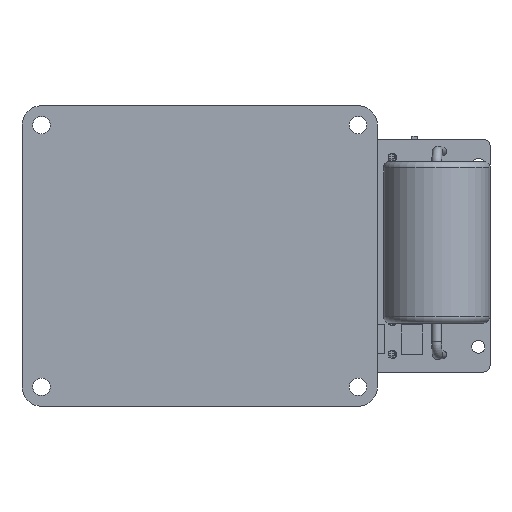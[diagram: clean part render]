
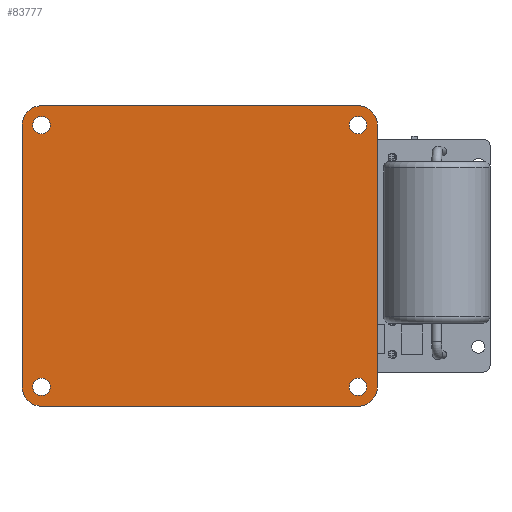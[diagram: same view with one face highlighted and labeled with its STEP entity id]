
A CAD part, front view. The second image highlights one B-rep face of the part: STEP entity #83777.
In plain terms, the highlighted planar face has unit normal (0, -1, 0).
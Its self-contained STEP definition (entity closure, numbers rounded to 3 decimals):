
#280 = AXIS2_PLACEMENT_3D ( 'NONE', #11546, #77367, #21029 ) ;
#2741 = CARTESIAN_POINT ( 'NONE',  ( 24.5, 0., -20.25 ) ) ;
#3440 = CARTESIAN_POINT ( 'NONE',  ( -27.5, 0., -23.25 ) ) ;
#3979 = AXIS2_PLACEMENT_3D ( 'NONE', #71376, #14977, #87202 ) ;
#5945 = CARTESIAN_POINT ( 'NONE',  ( -24.5, 0., 20.25 ) ) ;
#6022 = CARTESIAN_POINT ( 'NONE',  ( -24.5, 0., 21.6 ) ) ;
#7250 = CARTESIAN_POINT ( 'NONE',  ( 24.5, 0., -18.9 ) ) ;
#8607 = EDGE_CURVE ( 'NONE', #88658, #50095, #27370, .T. ) ;
#8664 = VERTEX_POINT ( 'NONE', #42141 ) ;
#9420 = CARTESIAN_POINT ( 'NONE',  ( -27.5, 0., 20.25 ) ) ;
#9463 = DIRECTION ( 'NONE',  ( 0., 0., 1. ) ) ;
#10241 = AXIS2_PLACEMENT_3D ( 'NONE', #5945, #71776, #15374 ) ;
#10761 = VERTEX_POINT ( 'NONE', #48010 ) ;
#11461 = CIRCLE ( 'NONE', #28093, 3. ) ;
#11546 = CARTESIAN_POINT ( 'NONE',  ( -24.5, 0., -20.25 ) ) ;
#12198 = DIRECTION ( 'NONE',  ( 0., 0., 1. ) ) ;
#14977 = DIRECTION ( 'NONE',  ( 0., -1., 0. ) ) ;
#15374 = DIRECTION ( 'NONE',  ( 0., 0., 1. ) ) ;
#18169 = CARTESIAN_POINT ( 'NONE',  ( -27.5, 0., -23.25 ) ) ;
#18264 = CARTESIAN_POINT ( 'NONE',  ( -24.5, 0., 20.25 ) ) ;
#18703 = ORIENTED_EDGE ( 'NONE', *, *, #69600, .F. ) ;
#21029 = DIRECTION ( 'NONE',  ( 0., 0., 1. ) ) ;
#22060 = FACE_BOUND ( 'NONE', #27642, .T. ) ;
#25489 = CIRCLE ( 'NONE', #57695, 3. ) ;
#27370 = LINE ( 'NONE', #3440, #30285 ) ;
#27642 = EDGE_LOOP ( 'NONE', ( #111298 ) ) ;
#27694 = DIRECTION ( 'NONE',  ( 0., 0., 1. ) ) ;
#28093 = AXIS2_PLACEMENT_3D ( 'NONE', #122360, #65870, #9463 ) ;
#28945 = DIRECTION ( 'NONE',  ( 0., -1., 0. ) ) ;
#29708 = LINE ( 'NONE', #105727, #32718 ) ;
#30285 = VECTOR ( 'NONE', #69287, 1000. ) ;
#32718 = VECTOR ( 'NONE', #49315, 1000. ) ;
#33107 = CARTESIAN_POINT ( 'NONE',  ( 24.5, 0., 23.25 ) ) ;
#33970 = VECTOR ( 'NONE', #37076, 1000. ) ;
#36290 = CARTESIAN_POINT ( 'NONE',  ( -27.5, 0., -20.25 ) ) ;
#37076 = DIRECTION ( 'NONE',  ( 0., 0., 1. ) ) ;
#38023 = ORIENTED_EDGE ( 'NONE', *, *, #38598, .T. ) ;
#38213 = VECTOR ( 'NONE', #71411, 1000. ) ;
#38598 = EDGE_CURVE ( 'NONE', #104832, #50095, #11461, .T. ) ;
#39486 = ORIENTED_EDGE ( 'NONE', *, *, #115641, .T. ) ;
#40102 = CIRCLE ( 'NONE', #3979, 3. ) ;
#40690 = VERTEX_POINT ( 'NONE', #9420 ) ;
#41190 = LINE ( 'NONE', #118469, #38213 ) ;
#41204 = CIRCLE ( 'NONE', #99395, 1.35 ) ;
#41538 = EDGE_CURVE ( 'NONE', #88658, #80231, #40102, .T. ) ;
#42141 = CARTESIAN_POINT ( 'NONE',  ( 27.5, 0., 20.25 ) ) ;
#43429 = VERTEX_POINT ( 'NONE', #6022 ) ;
#43796 = CIRCLE ( 'NONE', #10241, 3. ) ;
#44182 = FACE_BOUND ( 'NONE', #89094, .T. ) ;
#44874 = VERTEX_POINT ( 'NONE', #7250 ) ;
#46769 = CARTESIAN_POINT ( 'NONE',  ( -24.5, 0., -23.25 ) ) ;
#48010 = CARTESIAN_POINT ( 'NONE',  ( -24.5, 0., -18.9 ) ) ;
#49315 = DIRECTION ( 'NONE',  ( 1., 0., 0. ) ) ;
#50095 = VERTEX_POINT ( 'NONE', #46769 ) ;
#50106 = FACE_BOUND ( 'NONE', #89266, .T. ) ;
#50295 = VERTEX_POINT ( 'NONE', #33107 ) ;
#51392 = CARTESIAN_POINT ( 'NONE',  ( 24.5, 0., 21.6 ) ) ;
#55570 = AXIS2_PLACEMENT_3D ( 'NONE', #18264, #84079, #27694 ) ;
#56058 = CARTESIAN_POINT ( 'NONE',  ( -27.5, 0., 23.25 ) ) ;
#56109 = CARTESIAN_POINT ( 'NONE',  ( 24.5, 0., 20.25 ) ) ;
#56298 = EDGE_CURVE ( 'NONE', #8664, #80231, #41190, .T. ) ;
#56971 = EDGE_CURVE ( 'NONE', #75824, #75824, #41204, .T. ) ;
#57695 = AXIS2_PLACEMENT_3D ( 'NONE', #85350, #28945, #94859 ) ;
#58157 = EDGE_LOOP ( 'NONE', ( #58898, #38023, #119423, #82149, #61183, #39486, #97988, #61410 ) ) ;
#58898 = ORIENTED_EDGE ( 'NONE', *, *, #99668, .F. ) ;
#61183 = ORIENTED_EDGE ( 'NONE', *, *, #56298, .F. ) ;
#61410 = ORIENTED_EDGE ( 'NONE', *, *, #75247, .T. ) ;
#62121 = VERTEX_POINT ( 'NONE', #91601 ) ;
#65486 = DIRECTION ( 'NONE',  ( 0., 0., 1. ) ) ;
#65532 = DIRECTION ( 'NONE',  ( 0., 0., 1. ) ) ;
#65870 = DIRECTION ( 'NONE',  ( 0., -1., 0. ) ) ;
#67958 = CARTESIAN_POINT ( 'NONE',  ( 24.5, 0., -23.25 ) ) ;
#68577 = DIRECTION ( 'NONE',  ( 0., -1., 0. ) ) ;
#69169 = FACE_OUTER_BOUND ( 'NONE', #58157, .T. ) ;
#69287 = DIRECTION ( 'NONE',  ( -1., 0., 0. ) ) ;
#69600 = EDGE_CURVE ( 'NONE', #43429, #43429, #79412, .T. ) ;
#71376 = CARTESIAN_POINT ( 'NONE',  ( 24.5, 0., -20.25 ) ) ;
#71411 = DIRECTION ( 'NONE',  ( 0., 0., -1. ) ) ;
#71776 = DIRECTION ( 'NONE',  ( 0., -1., 0. ) ) ;
#75247 = EDGE_CURVE ( 'NONE', #62121, #40690, #43796, .T. ) ;
#75824 = VERTEX_POINT ( 'NONE', #51392 ) ;
#75934 = CIRCLE ( 'NONE', #280, 1.35 ) ;
#75950 = CARTESIAN_POINT ( 'NONE',  ( 27.5, 0., -20.25 ) ) ;
#77367 = DIRECTION ( 'NONE',  ( 0., -1., 0. ) ) ;
#78547 = EDGE_CURVE ( 'NONE', #44874, #44874, #108470, .T. ) ;
#79412 = CIRCLE ( 'NONE', #55570, 1.35 ) ;
#80231 = VERTEX_POINT ( 'NONE', #75950 ) ;
#82149 = ORIENTED_EDGE ( 'NONE', *, *, #41538, .T. ) ;
#83777 = ADVANCED_FACE ( 'NONE', ( #50106, #94216, #22060, #44182, #69169 ), #112533, .F. ) ;
#84079 = DIRECTION ( 'NONE',  ( 0., -1., 0. ) ) ;
#85350 = CARTESIAN_POINT ( 'NONE',  ( 24.5, 0., 20.25 ) ) ;
#87202 = DIRECTION ( 'NONE',  ( 0., 0., 1. ) ) ;
#88658 = VERTEX_POINT ( 'NONE', #67958 ) ;
#89094 = EDGE_LOOP ( 'NONE', ( #119082 ) ) ;
#89266 = EDGE_LOOP ( 'NONE', ( #108846 ) ) ;
#89405 = AXIS2_PLACEMENT_3D ( 'NONE', #2741, #68577, #12198 ) ;
#91601 = CARTESIAN_POINT ( 'NONE',  ( -24.5, 0., 23.25 ) ) ;
#94216 = FACE_BOUND ( 'NONE', #115958, .T. ) ;
#94859 = DIRECTION ( 'NONE',  ( 0., 0., 1. ) ) ;
#97988 = ORIENTED_EDGE ( 'NONE', *, *, #102017, .F. ) ;
#99395 = AXIS2_PLACEMENT_3D ( 'NONE', #56109, #122033, #65532 ) ;
#99668 = EDGE_CURVE ( 'NONE', #104832, #40690, #106177, .T. ) ;
#102017 = EDGE_CURVE ( 'NONE', #62121, #50295, #29708, .T. ) ;
#103802 = AXIS2_PLACEMENT_3D ( 'NONE', #56058, #121972, #65486 ) ;
#104832 = VERTEX_POINT ( 'NONE', #36290 ) ;
#105727 = CARTESIAN_POINT ( 'NONE',  ( -27.5, 0., 23.25 ) ) ;
#106177 = LINE ( 'NONE', #18169, #33970 ) ;
#108470 = CIRCLE ( 'NONE', #89405, 1.35 ) ;
#108846 = ORIENTED_EDGE ( 'NONE', *, *, #56971, .F. ) ;
#109928 = EDGE_CURVE ( 'NONE', #10761, #10761, #75934, .T. ) ;
#111298 = ORIENTED_EDGE ( 'NONE', *, *, #109928, .F. ) ;
#112533 = PLANE ( 'NONE',  #103802 ) ;
#115641 = EDGE_CURVE ( 'NONE', #8664, #50295, #25489, .T. ) ;
#115958 = EDGE_LOOP ( 'NONE', ( #18703 ) ) ;
#118469 = CARTESIAN_POINT ( 'NONE',  ( 27.5, 0., -23.25 ) ) ;
#119082 = ORIENTED_EDGE ( 'NONE', *, *, #78547, .F. ) ;
#119423 = ORIENTED_EDGE ( 'NONE', *, *, #8607, .F. ) ;
#121972 = DIRECTION ( 'NONE',  ( 0., 1., 0. ) ) ;
#122033 = DIRECTION ( 'NONE',  ( 0., -1., 0. ) ) ;
#122360 = CARTESIAN_POINT ( 'NONE',  ( -24.5, 0., -20.25 ) ) ;
